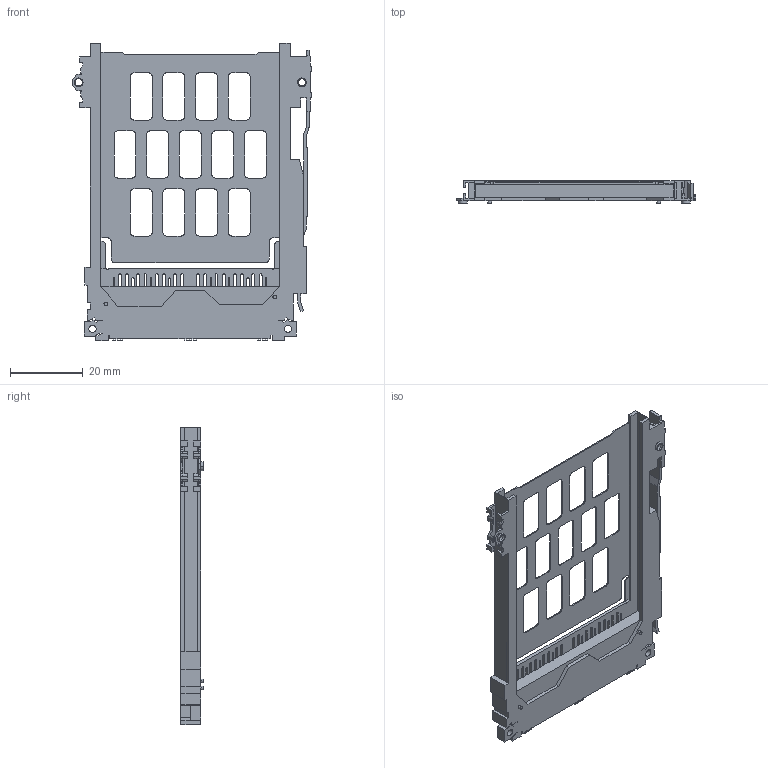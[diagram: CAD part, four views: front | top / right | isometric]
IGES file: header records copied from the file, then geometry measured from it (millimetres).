
Start section:  PTC IGES file: pcmcia-sk41445-00r0-fci_prt.igs
Global section: file name: pcmcia-sk41445-00r0-fci_prt.igs; native system: Pro/ENGINEER by Parametric Technology Corporation; preprocessor: 2000030; author: ECaille; organization: Unknown; date: 000803.092122; units: millimetre
Bounding box: 65.96 x 6.2 x 82.1 mm (x, y, z)
Surface area: 11428.6 mm2 (no closed solid volume)
Topology: 0 solids, 0 shells, 775 faces, 7711 edges, 10698 vertices
Faces by surface type: bspline 540, revolution 235
